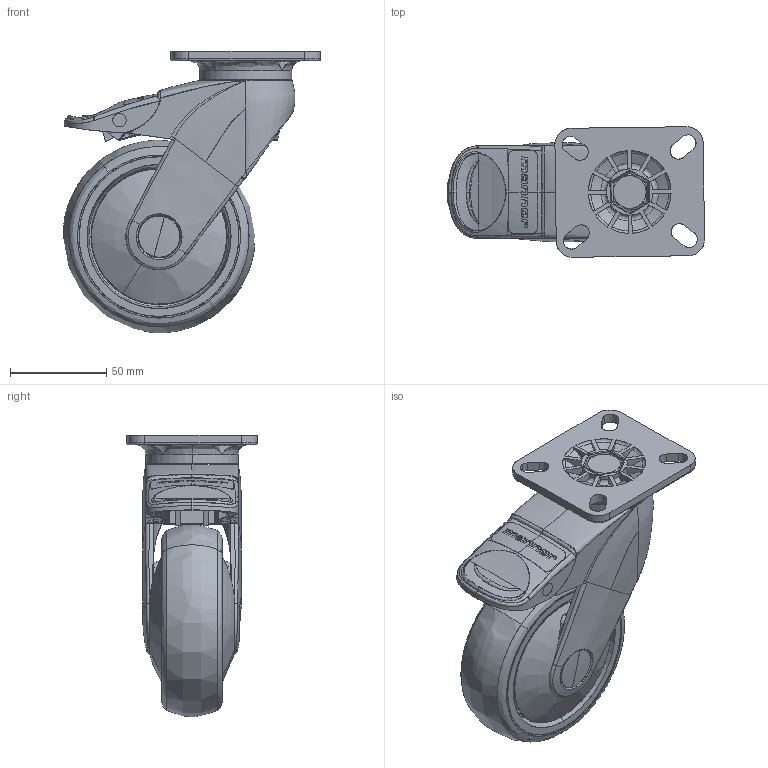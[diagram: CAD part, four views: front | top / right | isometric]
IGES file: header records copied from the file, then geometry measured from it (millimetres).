
Start section: SolidWorks IGES file using analytic representation for surfaces
Global section: file name: S:\Tyokansio\VL\301811_IGES.IGS; native system: SolidWorks 2011; preprocessor: SolidWorks 2011; author: VilleLa; date: 110622.080949; units: millimetre
Bounding box: 133.44 x 67.79 x 146.26 mm (x, y, z)
Surface area: 97780.9 mm2 (no closed solid volume)
Topology: 0 solids, 0 shells, 737 faces, 12799 edges, 12778 vertices
Faces by surface type: bspline 552, revolution 185
